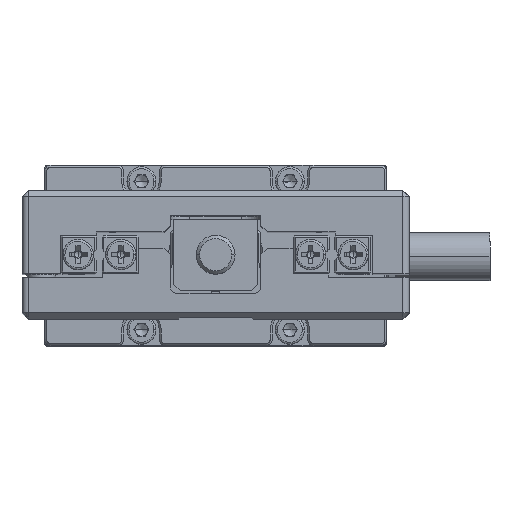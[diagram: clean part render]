
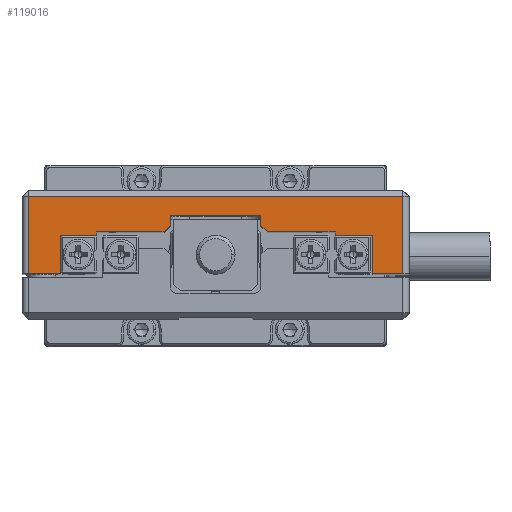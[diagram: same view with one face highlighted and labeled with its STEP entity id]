
A CAD part, top view. The second image highlights one B-rep face of the part: STEP entity #119016.
In plain terms, the highlighted planar face has unit normal (0, 0, 1).
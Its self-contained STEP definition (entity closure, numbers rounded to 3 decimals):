
#179 = EDGE_CURVE ( 'NONE', #36120, #25262, #119230, .T. ) ;
#2100 = CARTESIAN_POINT ( 'NONE',  ( -29., 7., 30. ) ) ;
#2382 = LINE ( 'NONE', #30330, #31126 ) ;
#2661 = ORIENTED_EDGE ( 'NONE', *, *, #61785, .T. ) ;
#2903 = DIRECTION ( 'NONE',  ( 0., -1., 0. ) ) ;
#4506 = EDGE_CURVE ( 'NONE', #105526, #48920, #29323, .T. ) ;
#4932 = ORIENTED_EDGE ( 'NONE', *, *, #179, .T. ) ;
#5680 = VERTEX_POINT ( 'NONE', #121919 ) ;
#6344 = ORIENTED_EDGE ( 'NONE', *, *, #115164, .T. ) ;
#7163 = CARTESIAN_POINT ( 'NONE',  ( 0., 13.5, 30. ) ) ;
#9214 = ORIENTED_EDGE ( 'NONE', *, *, #66682, .F. ) ;
#10161 = VERTEX_POINT ( 'NONE', #98259 ) ;
#11507 = CARTESIAN_POINT ( 'NONE',  ( 18.5, 13.5, 30. ) ) ;
#14183 = EDGE_CURVE ( 'NONE', #62061, #97348, #42620, .T. ) ;
#14319 = ORIENTED_EDGE ( 'NONE', *, *, #100091, .F. ) ;
#16930 = VECTOR ( 'NONE', #64920, 1000. ) ;
#18476 = LINE ( 'NONE', #87898, #92255 ) ;
#19025 = VECTOR ( 'NONE', #23406, 1000. ) ;
#19226 = VECTOR ( 'NONE', #39692, 1000. ) ;
#19241 = CARTESIAN_POINT ( 'NONE',  ( -24., 13., 30. ) ) ;
#19719 = VECTOR ( 'NONE', #28904, 1000. ) ;
#20199 = CARTESIAN_POINT ( 'NONE',  ( -24., 13., 30. ) ) ;
#20626 = CARTESIAN_POINT ( 'NONE',  ( 24.3, 7., 30. ) ) ;
#21175 = ORIENTED_EDGE ( 'NONE', *, *, #43725, .F. ) ;
#22342 = LINE ( 'NONE', #77821, #44942 ) ;
#22763 = DIRECTION ( 'NONE',  ( -1., 0., 0. ) ) ;
#23406 = DIRECTION ( 'NONE',  ( -1., 0., 0. ) ) ;
#24410 = CARTESIAN_POINT ( 'NONE',  ( 7., 13., 30. ) ) ;
#25262 = VERTEX_POINT ( 'NONE', #105708 ) ;
#25777 = CARTESIAN_POINT ( 'NONE',  ( 0., 13.5, 30. ) ) ;
#28904 = DIRECTION ( 'NONE',  ( 1., 0., 0. ) ) ;
#29323 = LINE ( 'NONE', #65382, #103106 ) ;
#29864 = DIRECTION ( 'NONE',  ( -1., 0., 0. ) ) ;
#29957 = ORIENTED_EDGE ( 'NONE', *, *, #4506, .T. ) ;
#30253 = DIRECTION ( 'NONE',  ( 0., 1., 0. ) ) ;
#30330 = CARTESIAN_POINT ( 'NONE',  ( 24.3, 13.5, 30. ) ) ;
#30696 = CARTESIAN_POINT ( 'NONE',  ( -24., 13.5, 30. ) ) ;
#31126 = VECTOR ( 'NONE', #97705, 1000. ) ;
#35584 = VECTOR ( 'NONE', #42878, 1000. ) ;
#36120 = VERTEX_POINT ( 'NONE', #20199 ) ;
#37795 = VECTOR ( 'NONE', #83479, 1000. ) ;
#39692 = DIRECTION ( 'NONE',  ( -1., 0., 0. ) ) ;
#40349 = VECTOR ( 'NONE', #97810, 1000. ) ;
#41763 = ORIENTED_EDGE ( 'NONE', *, *, #123517, .F. ) ;
#42620 = LINE ( 'NONE', #7163, #16930 ) ;
#42774 = CARTESIAN_POINT ( 'NONE',  ( 0., 16., 30. ) ) ;
#42878 = DIRECTION ( 'NONE',  ( 0., 1., 0. ) ) ;
#43102 = VERTEX_POINT ( 'NONE', #112084 ) ;
#43686 = CARTESIAN_POINT ( 'NONE',  ( 18.5, 13.5, 30. ) ) ;
#43725 = EDGE_CURVE ( 'NONE', #112316, #83957, #2382, .T. ) ;
#43827 = LINE ( 'NONE', #63768, #37795 ) ;
#44288 = VECTOR ( 'NONE', #98069, 1000. ) ;
#44942 = VECTOR ( 'NONE', #29864, 1000. ) ;
#46922 = EDGE_LOOP ( 'NONE', ( #6344, #86946, #122819, #95841, #29957, #41763, #48330, #2661, #21175, #66419, #9214, #82188, #101199, #101147, #109637, #4932, #14319, #109018 ) ) ;
#48330 = ORIENTED_EDGE ( 'NONE', *, *, #52341, .F. ) ;
#48920 = VERTEX_POINT ( 'NONE', #71263 ) ;
#52341 = EDGE_CURVE ( 'NONE', #122814, #65828, #86689, .T. ) ;
#52815 = DIRECTION ( 'NONE',  ( 0., 1., 0. ) ) ;
#54232 = DIRECTION ( 'NONE',  ( 0., -1., 0. ) ) ;
#56866 = LINE ( 'NONE', #110481, #105042 ) ;
#58328 = CARTESIAN_POINT ( 'NONE',  ( 0., 19., 30. ) ) ;
#59677 = VECTOR ( 'NONE', #2903, 1000. ) ;
#60341 = CARTESIAN_POINT ( 'NONE',  ( -24., 13., 30. ) ) ;
#61785 = EDGE_CURVE ( 'NONE', #122814, #83957, #96549, .T. ) ;
#62061 = VERTEX_POINT ( 'NONE', #62517 ) ;
#62517 = CARTESIAN_POINT ( 'NONE',  ( -8., 13.5, 30. ) ) ;
#63649 = LINE ( 'NONE', #70717, #114902 ) ;
#63768 = CARTESIAN_POINT ( 'NONE',  ( 29., 13.5, 30. ) ) ;
#64738 = VERTEX_POINT ( 'NONE', #106096 ) ;
#64920 = DIRECTION ( 'NONE',  ( -1., 0., 0. ) ) ;
#65075 = LINE ( 'NONE', #58328, #116372 ) ;
#65382 = CARTESIAN_POINT ( 'NONE',  ( 7., 14.5, 30. ) ) ;
#65828 = VERTEX_POINT ( 'NONE', #11507 ) ;
#66225 = CARTESIAN_POINT ( 'NONE',  ( -24., 7., 30. ) ) ;
#66419 = ORIENTED_EDGE ( 'NONE', *, *, #117530, .F. ) ;
#66682 = EDGE_CURVE ( 'NONE', #10161, #43102, #43827, .T. ) ;
#67851 = VECTOR ( 'NONE', #99073, 1000. ) ;
#68281 = CARTESIAN_POINT ( 'NONE',  ( 0., 13.5, 30. ) ) ;
#70626 = VERTEX_POINT ( 'NONE', #98341 ) ;
#70717 = CARTESIAN_POINT ( 'NONE',  ( 0., 7., 30. ) ) ;
#71263 = CARTESIAN_POINT ( 'NONE',  ( 8., 13.5, 30. ) ) ;
#73434 = LINE ( 'NONE', #68281, #19226 ) ;
#77821 = CARTESIAN_POINT ( 'NONE',  ( 0., 7., 30. ) ) ;
#78254 = VERTEX_POINT ( 'NONE', #97383 ) ;
#82188 = ORIENTED_EDGE ( 'NONE', *, *, #124884, .T. ) ;
#83158 = EDGE_CURVE ( 'NONE', #5680, #70626, #95819, .T. ) ;
#83479 = DIRECTION ( 'NONE',  ( 0., -1., 0. ) ) ;
#83577 = AXIS2_PLACEMENT_3D ( 'NONE', #25777, #121850, #112467 ) ;
#83957 = VERTEX_POINT ( 'NONE', #114125 ) ;
#86689 = LINE ( 'NONE', #43686, #35584 ) ;
#86942 = CARTESIAN_POINT ( 'NONE',  ( 7., 14.5, 30. ) ) ;
#86946 = ORIENTED_EDGE ( 'NONE', *, *, #88825, .T. ) ;
#87502 = VECTOR ( 'NONE', #54232, 1000. ) ;
#87898 = CARTESIAN_POINT ( 'NONE',  ( -7., 13., 30. ) ) ;
#88825 = EDGE_CURVE ( 'NONE', #78254, #70626, #18476, .T. ) ;
#90695 = EDGE_CURVE ( 'NONE', #5680, #105526, #113210, .T. ) ;
#91525 = VERTEX_POINT ( 'NONE', #2100 ) ;
#92255 = VECTOR ( 'NONE', #30253, 1000. ) ;
#95819 = LINE ( 'NONE', #42774, #19025 ) ;
#95841 = ORIENTED_EDGE ( 'NONE', *, *, #90695, .T. ) ;
#96549 = LINE ( 'NONE', #19241, #19719 ) ;
#97348 = VERTEX_POINT ( 'NONE', #120022 ) ;
#97383 = CARTESIAN_POINT ( 'NONE',  ( -7., 14.5, 30. ) ) ;
#97705 = DIRECTION ( 'NONE',  ( 0., 1., 0. ) ) ;
#97810 = DIRECTION ( 'NONE',  ( 0.707, 0.707, 0. ) ) ;
#98069 = DIRECTION ( 'NONE',  ( 0., -1., 0. ) ) ;
#98259 = CARTESIAN_POINT ( 'NONE',  ( 29., 19., 30. ) ) ;
#98341 = CARTESIAN_POINT ( 'NONE',  ( -7., 16., 30. ) ) ;
#99073 = DIRECTION ( 'NONE',  ( 1., 0., 0. ) ) ;
#100091 = EDGE_CURVE ( 'NONE', #97348, #25262, #107866, .T. ) ;
#101147 = ORIENTED_EDGE ( 'NONE', *, *, #121059, .F. ) ;
#101199 = ORIENTED_EDGE ( 'NONE', *, *, #108117, .F. ) ;
#102481 = VERTEX_POINT ( 'NONE', #66225 ) ;
#102726 = PLANE ( 'NONE',  #83577 ) ;
#103106 = VECTOR ( 'NONE', #123212, 1000. ) ;
#105042 = VECTOR ( 'NONE', #52815, 1000. ) ;
#105526 = VERTEX_POINT ( 'NONE', #86942 ) ;
#105708 = CARTESIAN_POINT ( 'NONE',  ( -18.5, 13., 30. ) ) ;
#106096 = CARTESIAN_POINT ( 'NONE',  ( -29., 19., 30. ) ) ;
#107866 = LINE ( 'NONE', #108681, #59677 ) ;
#108117 = EDGE_CURVE ( 'NONE', #91525, #64738, #56866, .T. ) ;
#108681 = CARTESIAN_POINT ( 'NONE',  ( -18.5, 13.5, 30. ) ) ;
#109018 = ORIENTED_EDGE ( 'NONE', *, *, #14183, .F. ) ;
#109300 = FACE_OUTER_BOUND ( 'NONE', #46922, .T. ) ;
#109637 = ORIENTED_EDGE ( 'NONE', *, *, #112290, .F. ) ;
#110481 = CARTESIAN_POINT ( 'NONE',  ( -29., 13.5, 30. ) ) ;
#112084 = CARTESIAN_POINT ( 'NONE',  ( 29., 7., 30. ) ) ;
#112290 = EDGE_CURVE ( 'NONE', #36120, #102481, #121179, .T. ) ;
#112316 = VERTEX_POINT ( 'NONE', #20626 ) ;
#112467 = DIRECTION ( 'NONE',  ( -1., 0., 0. ) ) ;
#113210 = LINE ( 'NONE', #24410, #87502 ) ;
#114125 = CARTESIAN_POINT ( 'NONE',  ( 24.3, 13., 30. ) ) ;
#114833 = CARTESIAN_POINT ( 'NONE',  ( 18.5, 13., 30. ) ) ;
#114902 = VECTOR ( 'NONE', #22763, 1000. ) ;
#115164 = EDGE_CURVE ( 'NONE', #62061, #78254, #117201, .T. ) ;
#116043 = DIRECTION ( 'NONE',  ( -1., 0., 0. ) ) ;
#116372 = VECTOR ( 'NONE', #116043, 1000. ) ;
#116841 = CARTESIAN_POINT ( 'NONE',  ( -8., 13.5, 30. ) ) ;
#117201 = LINE ( 'NONE', #116841, #40349 ) ;
#117530 = EDGE_CURVE ( 'NONE', #43102, #112316, #22342, .T. ) ;
#119016 = ADVANCED_FACE ( 'NONE', ( #109300 ), #102726, .F. ) ;
#119230 = LINE ( 'NONE', #60341, #67851 ) ;
#120022 = CARTESIAN_POINT ( 'NONE',  ( -18.5, 13.5, 30. ) ) ;
#121059 = EDGE_CURVE ( 'NONE', #102481, #91525, #63649, .T. ) ;
#121179 = LINE ( 'NONE', #30696, #44288 ) ;
#121850 = DIRECTION ( 'NONE',  ( 0., 0., -1. ) ) ;
#121919 = CARTESIAN_POINT ( 'NONE',  ( 7., 16., 30. ) ) ;
#122814 = VERTEX_POINT ( 'NONE', #114833 ) ;
#122819 = ORIENTED_EDGE ( 'NONE', *, *, #83158, .F. ) ;
#123212 = DIRECTION ( 'NONE',  ( 0.707, -0.707, 0. ) ) ;
#123517 = EDGE_CURVE ( 'NONE', #65828, #48920, #73434, .T. ) ;
#124884 = EDGE_CURVE ( 'NONE', #10161, #64738, #65075, .T. ) ;
